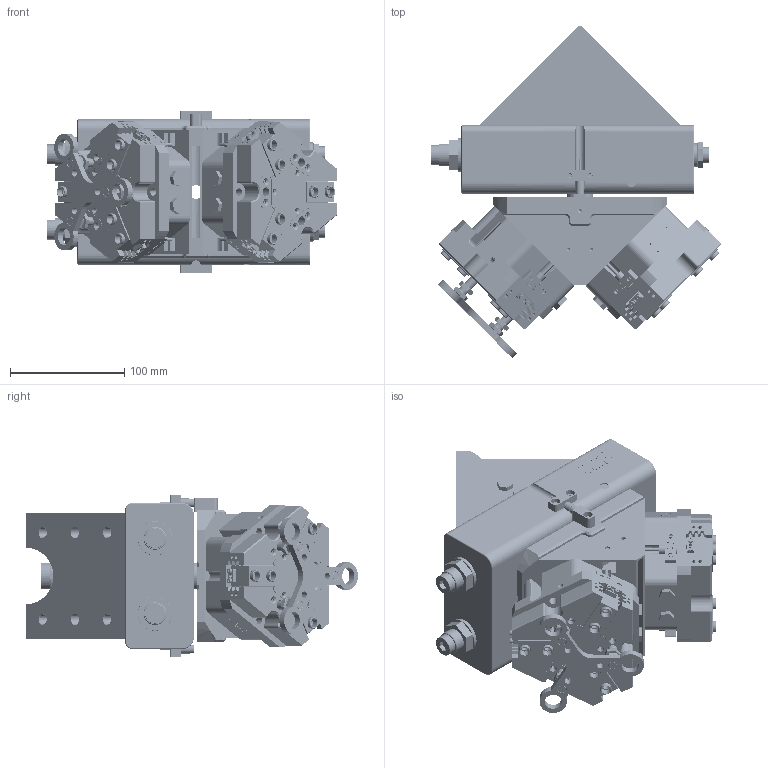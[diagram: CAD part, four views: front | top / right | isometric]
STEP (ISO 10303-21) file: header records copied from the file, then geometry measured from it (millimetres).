
FILE_DESCRIPTION (( 'STEP AP203' ), '1' );
FILE_NAME ('TG40-FZ70-125-0¡ã.STEP', '2025-07-24T05:23:28', ( 'USER-' ), ( 'Microsoft' ), 'SwSTEP 2.0', 'SolidWorks 2018', '' );
FILE_SCHEMA (( 'CONFIG_CONTROL_DESIGN' ));
Length unit declared in the file: millimetre
Products named in the file (53): M14-1.5-70蹟翐; 揤輸蚾饜极-3; TZT70-125-M-01褲极; TG40.sldasm-Part-6; TG40.sldasm-Part-21; 揤輸蚾饜极-2; TG40.sldasm-Part-22; TZT70-125-M-06 笢猾啣; ﾏ擎ﾗ10｡ﾁ8｡ﾁ6; TZT70-125-M-10 囀笢猾啣; FZ70-125-C30; 揤輸蚾饜极-4; 38x18-R5; TZT70-125-M-05 菁裔啣; TG40.sldasm-Part-27; TG40-M-02-C 眻褒輸; TG40-M-12 茞癹弇傷裔; TG40-FZ70-125-0°; TG40.sldasm-Part-20; TG40.sldasm-Part-37; 苤覜聆假蚾璃; TG40.sldasm-Part-26; M14杶蚾; TG40.sldasm-Part-14; 揤輸蚾饜极-1; TG40.sldasm-Part-35; 揤輸蚾饜极; 25x10-R1.5; 20241226-M4 M4換覜ん揤輸; TG40.sldasm-Part-28; 电容传感器8x23接近开关; TG40.sldasm-Part-11; TZT70-125-M-08 芢蹋; FZ70-125; TG40.sldasm-Part-7; TG40.sldasm-Part-13; TG40.sldasm-Part-19; 揤輸蚾饜极-5; TG40; TG40.sldasm-Part-29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
Assembly tree (115 placements, depth 4):
  TG40-FZ70-125-0°
    TG40
      TG40.sldasm-Part-6
      TG40.sldasm-Part-7
      TG40.sldasm-Part-8
      TG40.sldasm-Part-9
      TG40.sldasm-Part-11
      TG40.sldasm-Part-12
      TG40.sldasm-Part-13
      TG40.sldasm-Part-14
      TG40.sldasm-Part-19
      TG40.sldasm-Part-20
      TG40.sldasm-Part-21
      TG40.sldasm-Part-22
      TG40.sldasm-Part-25
      TG40.sldasm-Part-26
      TG40.sldasm-Part-27
      TG40.sldasm-Part-28
      TG40.sldasm-Part-29
      TG40.sldasm-Part-34
      TG40.sldasm-Part-35
      TG40.sldasm-Part-37
      TG40.sldasm-Part-41
      TG40-M-12 茞癹弇傷裔
      M14杶蚾  x2
      M14-1.5-70蹟翐  x2
      TG40-M-05遣喳傷裔
      38x18-R5
      TG40-M-02-C 眻褒輸
    TG40.sldasm-Part-26  x4
    FZ70-125-C30
      揤輸蚾饜极-3
        内六角圆柱头螺钉[GBT70_1-2008][M2.5×8]  x2
        苤覜聆假蚾璃
      揤輸蚾饜极-4
        内六角圆柱头螺钉[GBT70_1-2008][M2.5×8]  x2
        苤覜聆假蚾璃
      揤輸蚾饜极-5
        内六角圆柱头螺钉[GBT70_1-2008][M2.5×8]  x2
        苤覜聆假蚾璃
      -C30
        TZT70-125-M-07 芢裝  x3
        TZT70-125-M-08 芢蹋
        M8情蹟譫  x6
      TZT70-125-M-01褲极
      TZT70-125-M-02 賑輸  x3
      TZT70-125-M-05 菁裔啣
      TZT70-125-M-06 笢猾啣
      TZT70-125-M-10 囀笢猾啣  x3
      电容传感器8x23接近开关  x2
      20241226-M4 M4換覜ん揤輸  x2
      棠羲換覜ん  x2
      ﾏ擎ﾗ10｡ﾁ8｡ﾁ6  x6
      25x10-R1.5
    FZ70-125
      揤輸蚾饜极
        内六角圆柱头螺钉[GBT70_1-2008][M2.5×8]  x2
        苤覜聆假蚾璃
      揤輸蚾饜极-1
        内六角圆柱头螺钉[GBT70_1-2008][M2.5×8]  x2
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Bounding box: 254.96 x 290.94 x 142 mm (x, y, z)
Volume: 3983709.7 mm3; surface area: 548464.3 mm2
Topology: 107 solids, 123 shells, 6094 faces, 15781 edges, 10110 vertices
Faces by surface type: plane 2897, cylinder 1445, bspline 913, cone 744, torus 95
Entity records: 110597 total; most frequent: CARTESIAN_POINT 33613, ORIENTED_EDGE 14948, DIRECTION 13478, EDGE_CURVE 7474, VERTEX_POINT 4849, VECTOR 4702, LINE 4702, AXIS2_PLACEMENT_3D 4388
